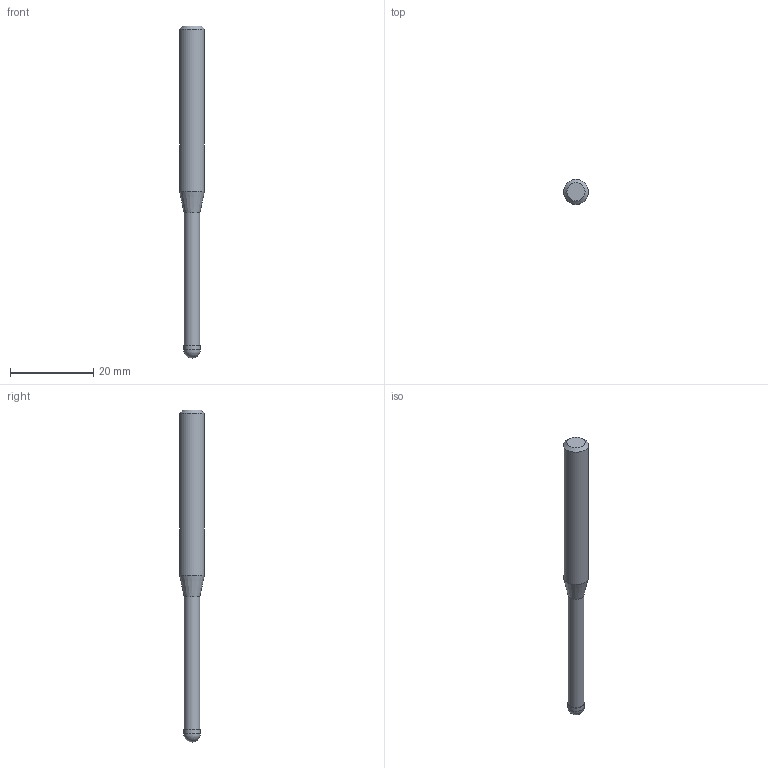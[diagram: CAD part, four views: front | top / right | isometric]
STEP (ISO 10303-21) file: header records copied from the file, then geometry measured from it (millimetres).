
FILE_DESCRIPTION((''),'2;1');
FILE_NAME('C:\Users\nsx150\AppData\Local\Temp\Mastercam 2021\ARV7HD45SN\TEMP.step','2023-06-13T16:39:19',(''),(''),'STEP Write','Mastercam 2021 ... CNC Software, Inc.','');
FILE_SCHEMA(('AUTOMOTIVE_DESIGN'));
Length unit declared in the file: millimetre
Products named in the file (1): None
Bounding box: 6 x 6 x 80 mm (x, y, z)
Volume: 1612 mm3; surface area: 1294.4 mm2
Topology: 2 solids, 2 shells, 9 faces, 14 edges, 8 vertices
Faces by surface type: plane 3, cylinder 3, cone 2, sphere 1
Full cylindrical faces by diameter (mm): 3.8 x1, 4 x1, 6 x1
Entity records: 211 total; most frequent: DIRECTION 36, CARTESIAN_POINT 25, AXIS2_PLACEMENT_3D 18, ORIENTED_EDGE 14, EDGE_LOOP 14, STYLED_ITEM 12, ADVANCED_FACE 9, FACE_BOUND 8
